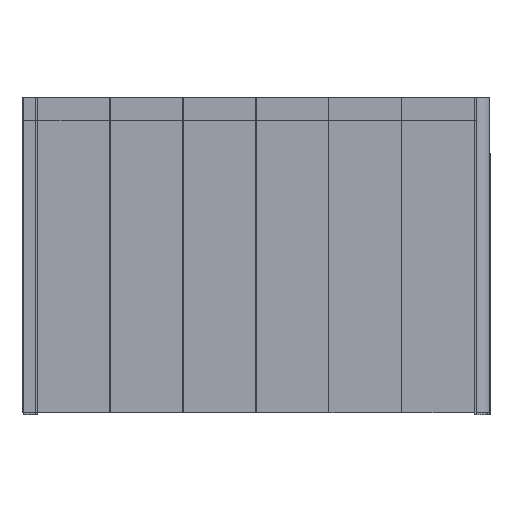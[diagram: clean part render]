
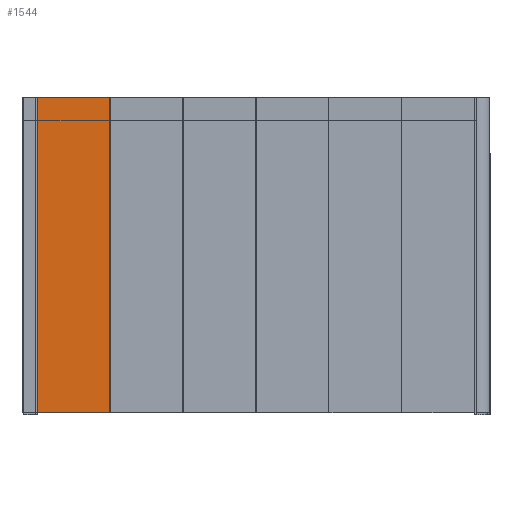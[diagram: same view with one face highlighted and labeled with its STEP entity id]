
A CAD part, left-side view. The second image highlights one B-rep face of the part: STEP entity #1544.
In plain terms, the highlighted planar face has unit normal (-1, 0, 0) as drawn and (1, 0, 0) by its records, which use the part's own axes.
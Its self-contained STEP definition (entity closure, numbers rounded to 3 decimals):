
#1544=ADVANCED_FACE('',(#2847),#18518,.T.);
#2847=FACE_OUTER_BOUND('',#4150,.T.);
#4150=EDGE_LOOP('',(#7088,#7089,#7090,#7091));
#7088=ORIENTED_EDGE('',*,*,#11659,.T.);
#7089=ORIENTED_EDGE('',*,*,#11660,.T.);
#7090=ORIENTED_EDGE('',*,*,#11661,.F.);
#7091=ORIENTED_EDGE('',*,*,#11657,.F.);
#11657=EDGE_CURVE('',#16837,#16838,#14487,.T.);
#11659=EDGE_CURVE('',#16837,#16839,#14489,.T.);
#11660=EDGE_CURVE('',#16839,#16840,#14490,.T.);
#11661=EDGE_CURVE('',#16838,#16840,#14491,.T.);
#14487=B_SPLINE_CURVE_WITH_KNOTS('',1,(#26836,#26837),.UNSPECIFIED.,.F.,
 .F.,(2,2),(0.,2600.),.UNSPECIFIED.);
#14489=B_SPLINE_CURVE_WITH_KNOTS('',1,(#26840,#26841),.UNSPECIFIED.,.F.,
 .F.,(2,2),(608.,1204.),.UNSPECIFIED.);
#14490=B_SPLINE_CURVE_WITH_KNOTS('',1,(#26842,#26843),.UNSPECIFIED.,.F.,
 .F.,(2,2),(0.,2600.),.UNSPECIFIED.);
#14491=B_SPLINE_CURVE_WITH_KNOTS('',1,(#26844,#26845),.UNSPECIFIED.,.F.,
 .F.,(2,2),(608.,1204.),.UNSPECIFIED.);
#16837=VERTEX_POINT('',#26822);
#16838=VERTEX_POINT('',#26823);
#16839=VERTEX_POINT('',#26824);
#16840=VERTEX_POINT('',#26825);
#18518=PLANE('',#20943);
#20943=AXIS2_PLACEMENT_3D('',#26814,#22441,$);
#22441=DIRECTION('',(1.,0.,0.));
#26814=CARTESIAN_POINT('',(-2646.,3130.,18.));
#26822=CARTESIAN_POINT('',(-2646.,3130.,18.));
#26823=CARTESIAN_POINT('',(-2646.,3130.,2618.));
#26824=CARTESIAN_POINT('',(-2646.,3726.,18.));
#26825=CARTESIAN_POINT('',(-2646.,3726.,2618.));
#26836=CARTESIAN_POINT('',(-2646.,3130.,18.));
#26837=CARTESIAN_POINT('',(-2646.,3130.,2618.));
#26840=CARTESIAN_POINT('',(-2646.,3130.,18.));
#26841=CARTESIAN_POINT('',(-2646.,3726.,18.));
#26842=CARTESIAN_POINT('',(-2646.,3726.,18.));
#26843=CARTESIAN_POINT('',(-2646.,3726.,2618.));
#26844=CARTESIAN_POINT('',(-2646.,3130.,2618.));
#26845=CARTESIAN_POINT('',(-2646.,3726.,2618.));
